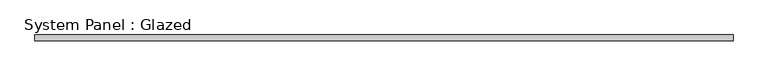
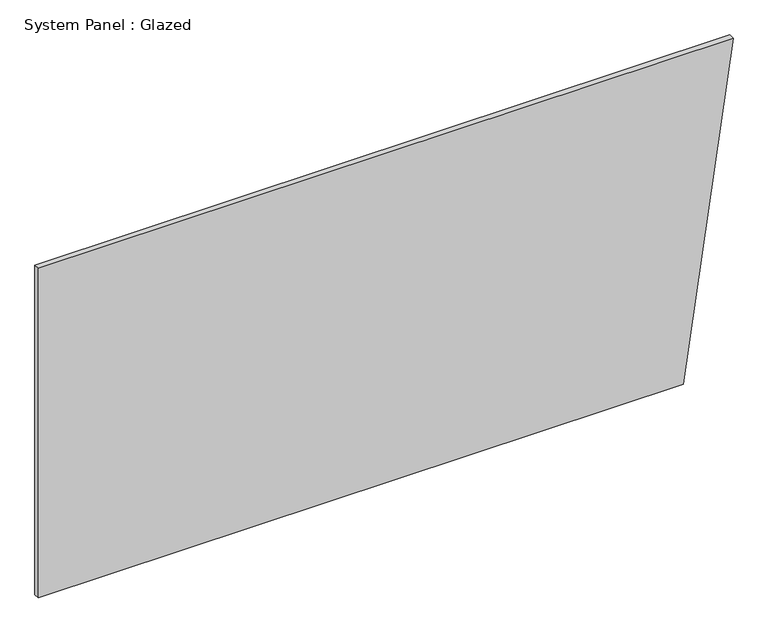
"""IFC4 building model written with IfcOpenShell, lengths in millimetres: plate geometry, System Panel : Glazed."""

from ifc_helpers import new_model, si_unit, frame, origin, place, context, project, spatial, polyline, outline, extrude, source, transform, mapped, element, save


def system_panel_glazed_0ba0d95b(model_context):
    return source(origin(), model_context, "Body", "SweptSolid", [
        extrude(outline(polyline([(0.0, -1519.3174857), (0.0, 1302.2721306), (1524.0, 1519.3174857), (1524.0, -1519.3174856), (0.0, -1519.3174857)])), frame((0.0, 19.05, 0.0), z_axis=(0.0, 1.0, 0.0), x_axis=(0.0, 0.0, 1.0)), (0.0, 0.0, 1.0), 25.4),
    ])


if __name__ == "__main__":
    model = new_model("IFC4")
    model_context = context("Model", 3, world=origin())
    ifc_project = project(units=[si_unit("LENGTHUNIT", "METRE", prefix="MILLI")], contexts=[model_context])
    site = spatial("IfcSite", under=ifc_project)
    building = spatial("IfcBuilding", under=site)
    placement = place(None, origin())
    system_panel_glazed_shape = system_panel_glazed_0ba0d95b(model_context)
    element("IfcPlate", 1, ObjectType="System Panel : Glazed", at=placement, inside=building, context=model_context, shape_type="MappedRepresentation", body=[
        mapped(system_panel_glazed_shape, transform((0.0, 0.0, 0.0), x_axis=(1.0, 0.0, 0.0), y_axis=(0.0, 1.0, 0.0), z_axis=(0.0, 0.0, 1.0))),
    ])
    save(model, "model.ifc")
